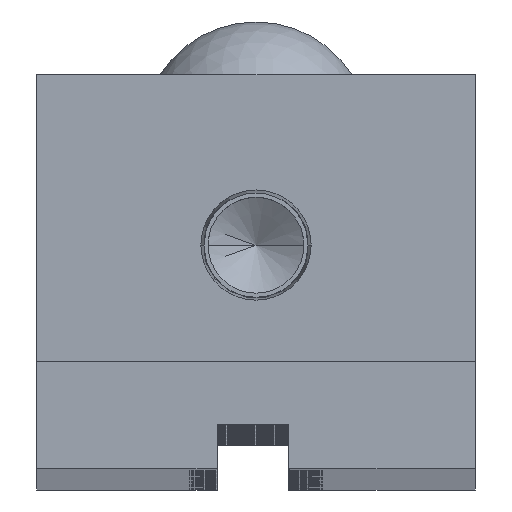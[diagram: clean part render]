
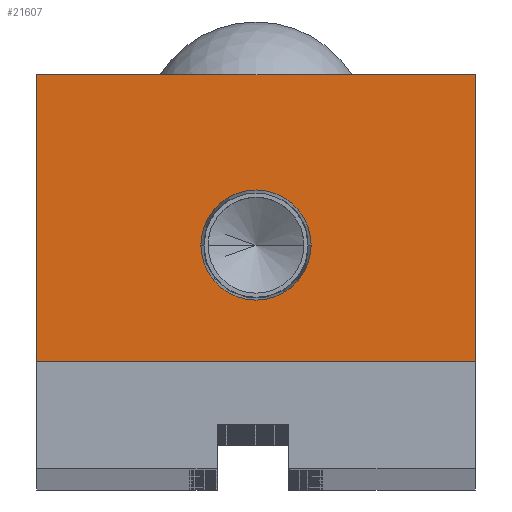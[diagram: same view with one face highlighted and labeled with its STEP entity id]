
A CAD part, top view. The second image highlights one B-rep face of the part: STEP entity #21607.
In plain terms, the highlighted planar face has unit normal (0, 0, 1).
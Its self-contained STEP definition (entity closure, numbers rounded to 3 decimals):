
#1032 = CARTESIAN_POINT ( 'NONE',  ( 0., 0., 0. ) ) ;
#1261 = DIRECTION ( 'NONE',  ( 1., 0., 0. ) ) ;
#1517 = FACE_OUTER_BOUND ( 'NONE', #20471, .T. ) ;
#3467 = DIRECTION ( 'NONE',  ( 0., 0., -1. ) ) ;
#3504 = CARTESIAN_POINT ( 'NONE',  ( -6.154, 13., 0. ) ) ;
#5371 = VERTEX_POINT ( 'NONE', #16294 ) ;
#5443 = EDGE_CURVE ( 'NONE', #19307, #5371, #18243, .T. ) ;
#5474 = LINE ( 'NONE', #18575, #30047 ) ;
#5553 = VECTOR ( 'NONE', #18893, 1000. ) ;
#6667 = LINE ( 'NONE', #30353, #24935 ) ;
#8241 = CARTESIAN_POINT ( 'NONE',  ( 24.5, 32., 0. ) ) ;
#9087 = DIRECTION ( 'NONE',  ( 1., 0., 0. ) ) ;
#9640 = DIRECTION ( 'NONE',  ( 0., 0., 1. ) ) ;
#9868 = ORIENTED_EDGE ( 'NONE', *, *, #25282, .T. ) ;
#10171 = ORIENTED_EDGE ( 'NONE', *, *, #25483, .T. ) ;
#11268 = ORIENTED_EDGE ( 'NONE', *, *, #24382, .T. ) ;
#11676 = ORIENTED_EDGE ( 'NONE', *, *, #25053, .F. ) ;
#11723 = CARTESIAN_POINT ( 'NONE',  ( -24.5, 0., 0. ) ) ;
#12240 = VECTOR ( 'NONE', #24912, 1000. ) ;
#13535 = FACE_BOUND ( 'NONE', #14179, .T. ) ;
#14123 = CARTESIAN_POINT ( 'NONE',  ( 24.5, 32., 0. ) ) ;
#14179 = EDGE_LOOP ( 'NONE', ( #11676, #14769 ) ) ;
#14769 = ORIENTED_EDGE ( 'NONE', *, *, #29762, .F. ) ;
#14988 = CIRCLE ( 'NONE', #27577, 6.154 ) ;
#15627 = DIRECTION ( 'NONE',  ( 0., 0., 1. ) ) ;
#16294 = CARTESIAN_POINT ( 'NONE',  ( -24.5, 0., 0. ) ) ;
#17788 = PLANE ( 'NONE',  #30729 ) ;
#18243 = LINE ( 'NONE', #11723, #5553 ) ;
#18484 = VERTEX_POINT ( 'NONE', #3504 ) ;
#18505 = CARTESIAN_POINT ( 'NONE',  ( 6.154, 13., 0. ) ) ;
#18536 = DIRECTION ( 'NONE',  ( -1., 0., 0. ) ) ;
#18575 = CARTESIAN_POINT ( 'NONE',  ( 24.5, 0., 0. ) ) ;
#18893 = DIRECTION ( 'NONE',  ( 0., -1., 0. ) ) ;
#18956 = CIRCLE ( 'NONE', #27027, 6.154 ) ;
#19307 = VERTEX_POINT ( 'NONE', #23729 ) ;
#20207 = DIRECTION ( 'NONE',  ( -1., 0., 0. ) ) ;
#20304 = VERTEX_POINT ( 'NONE', #21234 ) ;
#20471 = EDGE_LOOP ( 'NONE', ( #21159, #10171, #9868, #11268 ) ) ;
#21159 = ORIENTED_EDGE ( 'NONE', *, *, #5443, .T. ) ;
#21234 = CARTESIAN_POINT ( 'NONE',  ( 24.5, 0., 0. ) ) ;
#21607 = ADVANCED_FACE ( 'NONE', ( #13535, #1517 ), #17788, .F. ) ;
#23433 = VERTEX_POINT ( 'NONE', #14123 ) ;
#23729 = CARTESIAN_POINT ( 'NONE',  ( -24.5, 32., 0. ) ) ;
#23915 = CARTESIAN_POINT ( 'NONE',  ( 0., 13., 0. ) ) ;
#24382 = EDGE_CURVE ( 'NONE', #23433, #19307, #6667, .T. ) ;
#24912 = DIRECTION ( 'NONE',  ( 0., 1., 0. ) ) ;
#24935 = VECTOR ( 'NONE', #18536, 1000. ) ;
#25053 = EDGE_CURVE ( 'NONE', #26518, #18484, #18956, .T. ) ;
#25282 = EDGE_CURVE ( 'NONE', #20304, #23433, #30446, .T. ) ;
#25483 = EDGE_CURVE ( 'NONE', #5371, #20304, #5474, .T. ) ;
#26284 = DIRECTION ( 'NONE',  ( 1., 0., 0. ) ) ;
#26518 = VERTEX_POINT ( 'NONE', #18505 ) ;
#27027 = AXIS2_PLACEMENT_3D ( 'NONE', #23915, #9640, #26284 ) ;
#27577 = AXIS2_PLACEMENT_3D ( 'NONE', #29839, #15627, #1261 ) ;
#29762 = EDGE_CURVE ( 'NONE', #18484, #26518, #14988, .T. ) ;
#29839 = CARTESIAN_POINT ( 'NONE',  ( 0., 13., 0. ) ) ;
#30047 = VECTOR ( 'NONE', #9087, 1000. ) ;
#30353 = CARTESIAN_POINT ( 'NONE',  ( -24.5, 32., 0. ) ) ;
#30446 = LINE ( 'NONE', #8241, #12240 ) ;
#30729 = AXIS2_PLACEMENT_3D ( 'NONE', #1032, #3467, #20207 ) ;
